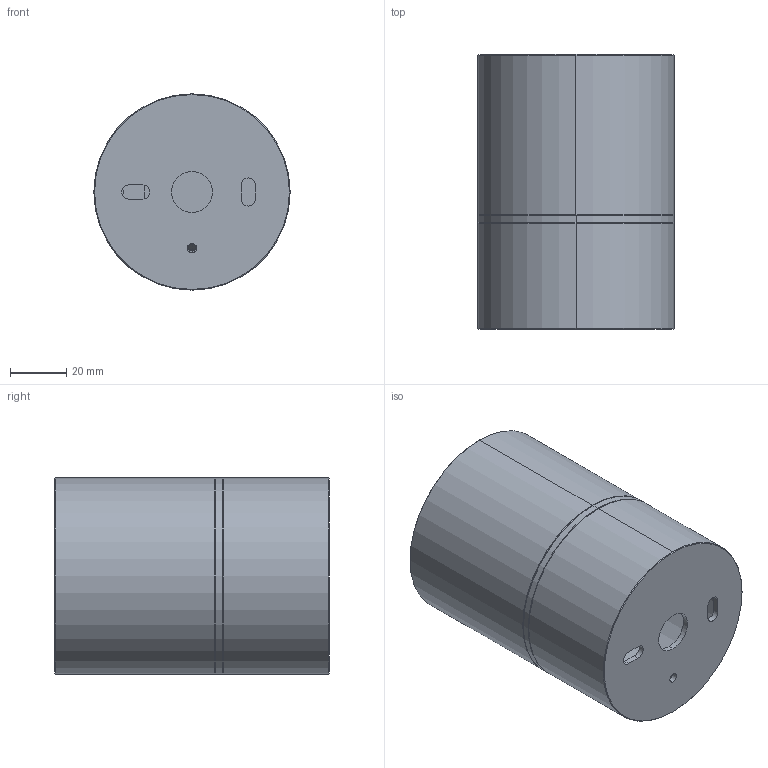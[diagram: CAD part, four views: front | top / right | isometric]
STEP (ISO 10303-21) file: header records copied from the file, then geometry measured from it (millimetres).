
FILE_DESCRIPTION (( 'STEP AP203' ), '1' );
FILE_NAME ('PLPIVOT01-EU-PER 3D.STEP', '2024-05-27T08:51:29', ( '' ), ( '' ), 'SwSTEP 2.0', 'SolidWorks 2024', '' );
FILE_SCHEMA (( 'CONFIG_CONTROL_DESIGN' ));
Length unit declared in the file: millimetre
Products named in the file (5): AXO063-21 - SatConnectorSingola; AXO063-11rev1 - SatHeatsink; AXO063-20 - BaseSingola; WSR1TLL01CRCEW38L2; PLPIVOT01-EU-PER 3D
Assembly tree (4 placements, depth 2):
  PLPIVOT01-EU-PER 3D
    AXO063-11rev1 - SatHeatsink
    WSR1TLL01CRCEW38L2
    AXO063-20 - BaseSingola
    AXO063-21 - SatConnectorSingola
Bounding box: 69.8 x 97.7 x 69.8 mm (x, y, z)
Volume: 198124.1 mm3; surface area: 63455.8 mm2
Topology: 4 solids, 4 shells, 434 faces, 1007 edges, 586 vertices
Faces by surface type: cylinder 329, cone 68, plane 33, bspline 4
Entity records: 14226 total; most frequent: CARTESIAN_POINT 4506, ORIENTED_EDGE 2006, DIRECTION 1797, EDGE_CURVE 1003, AXIS2_PLACEMENT_3D 819, VERTEX_POINT 586, EDGE_LOOP 485, B_SPLINE_CURVE_WITH_KNOTS 460
